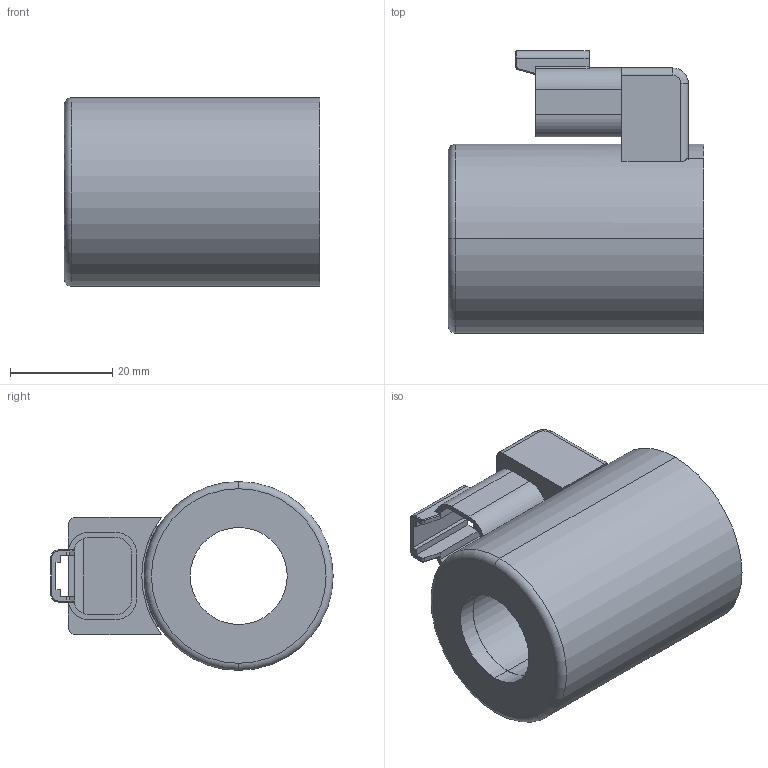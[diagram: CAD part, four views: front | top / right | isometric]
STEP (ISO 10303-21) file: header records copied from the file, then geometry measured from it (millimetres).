
FILE_DESCRIPTION (( 'STEP AP203' ), '1' );
FILE_NAME ('VGE37_19x50.step', '2013-07-25T09:11:01', ( 'Wandfluh AG' ), ( 'Wandfluh AG' ), 'SwSTEP 2.0', 'SolidWorks 2012', '' );
FILE_SCHEMA (( 'CONFIG_CONTROL_DESIGN' ));
Length unit declared in the file: millimetre
Products named in the file (1): VGE37_19x50
Bounding box: 50 x 55.31 x 37 mm (x, y, z)
Surface area: 23551.4 mm2 (no closed solid volume)
Topology: 0 solids, 6 shells, 96 faces, 266 edges, 171 vertices
Faces by surface type: cylinder 42, plane 38, bspline 10, cone 4, torus 2
Entity records: 3354 total; most frequent: CARTESIAN_POINT 847, DIRECTION 524, ORIENTED_EDGE 489, EDGE_CURVE 266, AXIS2_PLACEMENT_3D 190, VERTEX_POINT 171, VECTOR 144, LINE 144
